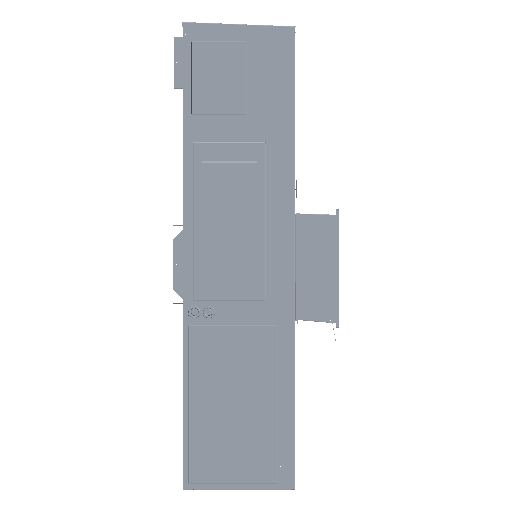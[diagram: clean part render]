
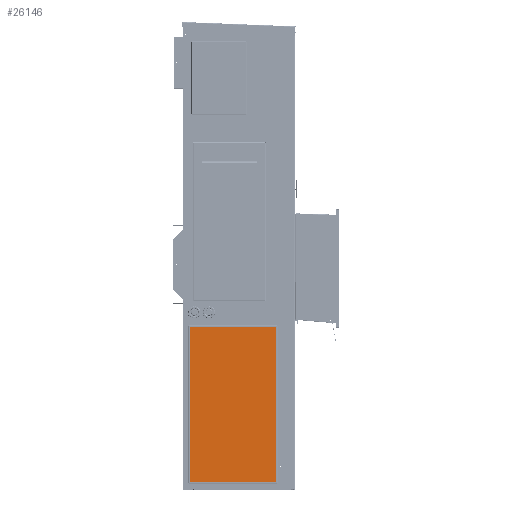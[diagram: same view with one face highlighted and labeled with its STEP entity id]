
A CAD part, top view. The second image highlights one B-rep face of the part: STEP entity #26146.
In plain terms, the highlighted planar face has unit normal (0, 0, 1).
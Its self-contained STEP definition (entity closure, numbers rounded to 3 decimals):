
#11799 = DIRECTION ( 'NONE',  ( -1., 0., 0. ) ) ;
#16300 = VECTOR ( 'NONE', #252373, 39.37 ) ;
#26146 = ADVANCED_FACE ( 'NONE', ( #142128 ), #170685, .T. ) ;
#35540 = CARTESIAN_POINT ( 'NONE',  ( 40.922, 35.985, 63.555 ) ) ;
#37055 = VECTOR ( 'NONE', #11799, 39.37 ) ;
#39898 = CARTESIAN_POINT ( 'NONE',  ( 27.968, 35.985, 63.555 ) ) ;
#61444 = CARTESIAN_POINT ( 'NONE',  ( 27.968, 12.536, 63.555 ) ) ;
#109167 = VERTEX_POINT ( 'NONE', #237493 ) ;
#132506 = ORIENTED_EDGE ( 'NONE', *, *, #195887, .F. ) ;
#140630 = EDGE_LOOP ( 'NONE', ( #132506, #197060, #419340, #343410 ) ) ;
#142128 = FACE_OUTER_BOUND ( 'NONE', #140630, .T. ) ;
#170685 = PLANE ( 'NONE',  #407782 ) ;
#182359 = VERTEX_POINT ( 'NONE', #35540 ) ;
#189769 = CARTESIAN_POINT ( 'NONE',  ( 27.968, 12.536, 63.555 ) ) ;
#189961 = LINE ( 'NONE', #435499, #201112 ) ;
#195887 = EDGE_CURVE ( 'NONE', #344995, #394343, #423010, .T. ) ;
#197060 = ORIENTED_EDGE ( 'NONE', *, *, #249737, .F. ) ;
#201112 = VECTOR ( 'NONE', #433976, 39.37 ) ;
#206546 = DIRECTION ( 'NONE',  ( 0., 0., 1. ) ) ;
#218100 = CARTESIAN_POINT ( 'NONE',  ( 27.968, 35.985, 63.555 ) ) ;
#222264 = VECTOR ( 'NONE', #289399, 39.37 ) ;
#237493 = CARTESIAN_POINT ( 'NONE',  ( 40.922, 12.536, 63.555 ) ) ;
#249737 = EDGE_CURVE ( 'NONE', #109167, #344995, #416505, .T. ) ;
#252373 = DIRECTION ( 'NONE',  ( 1., 0., 0. ) ) ;
#289399 = DIRECTION ( 'NONE',  ( 0., 1., 0. ) ) ;
#311944 = LINE ( 'NONE', #218100, #16300 ) ;
#343410 = ORIENTED_EDGE ( 'NONE', *, *, #389712, .F. ) ;
#344995 = VERTEX_POINT ( 'NONE', #411047 ) ;
#389712 = EDGE_CURVE ( 'NONE', #394343, #182359, #311944, .T. ) ;
#394343 = VERTEX_POINT ( 'NONE', #453239 ) ;
#407782 = AXIS2_PLACEMENT_3D ( 'NONE', #61444, #206546, #455802 ) ;
#411047 = CARTESIAN_POINT ( 'NONE',  ( 27.968, 12.536, 63.555 ) ) ;
#416505 = LINE ( 'NONE', #189769, #37055 ) ;
#419340 = ORIENTED_EDGE ( 'NONE', *, *, #443655, .F. ) ;
#423010 = LINE ( 'NONE', #39898, #222264 ) ;
#433976 = DIRECTION ( 'NONE',  ( 0., -1., 0. ) ) ;
#435499 = CARTESIAN_POINT ( 'NONE',  ( 40.922, 35.985, 63.555 ) ) ;
#443655 = EDGE_CURVE ( 'NONE', #182359, #109167, #189961, .T. ) ;
#453239 = CARTESIAN_POINT ( 'NONE',  ( 27.968, 35.985, 63.555 ) ) ;
#455802 = DIRECTION ( 'NONE',  ( 0., -1., 0. ) ) ;
